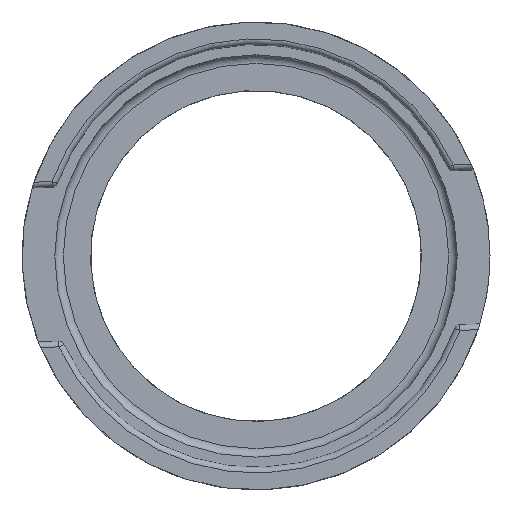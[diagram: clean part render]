
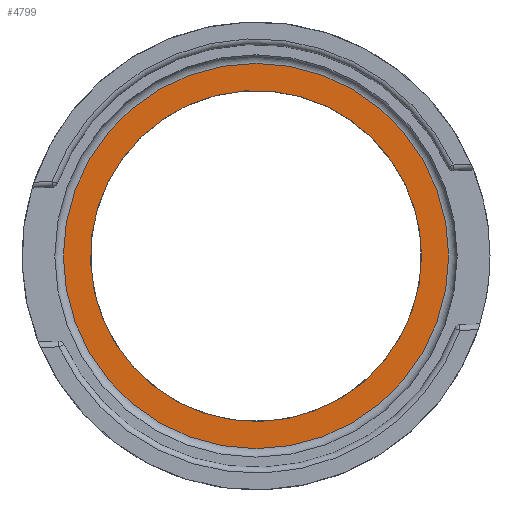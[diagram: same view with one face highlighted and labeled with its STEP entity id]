
A CAD part, top view. The second image highlights one B-rep face of the part: STEP entity #4799.
In plain terms, the highlighted planar face has unit normal (0, 0, 1).
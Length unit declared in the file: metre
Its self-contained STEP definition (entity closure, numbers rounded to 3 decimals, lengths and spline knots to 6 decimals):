
#679=CIRCLE('',#5185,0.03375);
#680=CIRCLE('',#5186,0.029);
#1529=ORIENTED_EDGE('',*,*,#2817,.T.);
#1530=ORIENTED_EDGE('',*,*,#2818,.T.);
#2817=EDGE_CURVE('',#3380,#3380,#679,.F.);
#2818=EDGE_CURVE('',#3381,#3381,#680,.T.);
#3380=VERTEX_POINT('',#11806);
#3381=VERTEX_POINT('',#11808);
#4028=EDGE_LOOP('',(#1529));
#4029=EDGE_LOOP('',(#1530));
#4350=FACE_BOUND('',#4028,.T.);
#4351=FACE_BOUND('',#4029,.T.);
#4561=PLANE('',#5184);
#4799=ADVANCED_FACE('',(#4350,#4351),#4561,.F.);
#5184=AXIS2_PLACEMENT_3D('',#11804,#5772,#5773);
#5185=AXIS2_PLACEMENT_3D('',#11805,#5774,#5775);
#5186=AXIS2_PLACEMENT_3D('',#11807,#5776,#5777);
#5772=DIRECTION('',(0.,0.,-1.));
#5773=DIRECTION('',(0.819,0.574,0.));
#5774=DIRECTION('',(0.,0.,-1.));
#5775=DIRECTION('',(1.,0.,0.));
#5776=DIRECTION('',(0.,0.,-1.));
#5777=DIRECTION('',(1.,0.,0.));
#11804=CARTESIAN_POINT('',(0.,0.,0.0748));
#11805=CARTESIAN_POINT('',(0.,0.,0.0748));
#11806=CARTESIAN_POINT('',(0.03375,0.,0.0748));
#11807=CARTESIAN_POINT('',(0.,0.,0.0748));
#11808=CARTESIAN_POINT('',(0.029,0.,0.0748));
